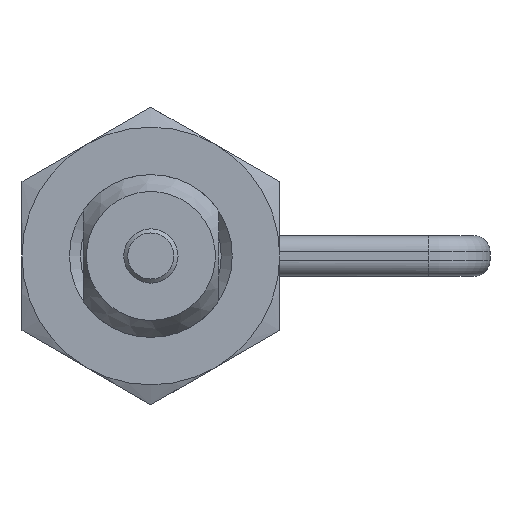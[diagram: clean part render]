
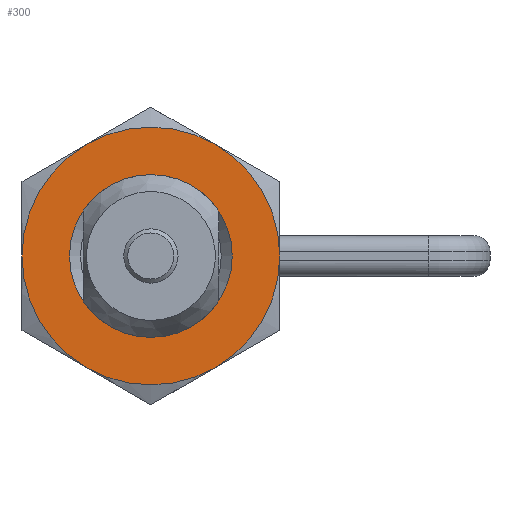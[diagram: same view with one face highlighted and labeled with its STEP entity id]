
A CAD part, front view. The second image highlights one B-rep face of the part: STEP entity #300.
In plain terms, the highlighted planar face has unit normal (0, -1, 0).
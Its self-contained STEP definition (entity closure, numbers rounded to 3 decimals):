
#300 = ADVANCED_FACE( '', ( #517, #518 ), #519, .F. );
#517 = FACE_BOUND( '', #737, .T. );
#518 = FACE_OUTER_BOUND( '', #738, .T. );
#519 = PLANE( '', #739 );
#737 = EDGE_LOOP( '', ( #1425 ) );
#738 = EDGE_LOOP( '', ( #1426, #1427, #1428, #1429, #1430, #1431 ) );
#739 = AXIS2_PLACEMENT_3D( '', #1432, #1433, #1434 );
#1425 = ORIENTED_EDGE( '', *, *, #1648, .F. );
#1426 = ORIENTED_EDGE( '', *, *, #1651, .T. );
#1427 = ORIENTED_EDGE( '', *, *, #1652, .T. );
#1428 = ORIENTED_EDGE( '', *, *, #1618, .T. );
#1429 = ORIENTED_EDGE( '', *, *, #1643, .T. );
#1430 = ORIENTED_EDGE( '', *, *, #1644, .T. );
#1431 = ORIENTED_EDGE( '', *, *, #1645, .T. );
#1432 = CARTESIAN_POINT( '', ( 9.5, 0., 0. ) );
#1433 = DIRECTION( '', ( 0., 1., 0. ) );
#1434 = DIRECTION( '', ( 0., 0., 1. ) );
#1618 = EDGE_CURVE( '', #1942, #1943, #1944, .T. );
#1643 = EDGE_CURVE( '', #1943, #1924, #1981, .T. );
#1644 = EDGE_CURVE( '', #1924, #1936, #1982, .T. );
#1645 = EDGE_CURVE( '', #1936, #1983, #1984, .T. );
#1648 = EDGE_CURVE( '', #1987, #1987, #1988, .T. );
#1651 = EDGE_CURVE( '', #1983, #1951, #1993, .T. );
#1652 = EDGE_CURVE( '', #1951, #1942, #1994, .T. );
#1924 = VERTEX_POINT( '', #2688 );
#1936 = VERTEX_POINT( '', #2722 );
#1942 = VERTEX_POINT( '', #2748 );
#1943 = VERTEX_POINT( '', #2749 );
#1944 = CIRCLE( '', #2750, 9.5 );
#1951 = VERTEX_POINT( '', #2768 );
#1981 = CIRCLE( '', #2860, 9.5 );
#1982 = CIRCLE( '', #2861, 9.5 );
#1983 = VERTEX_POINT( '', #2862 );
#1984 = CIRCLE( '', #2863, 9.5 );
#1987 = VERTEX_POINT( '', #2876 );
#1988 = CIRCLE( '', #2877, 6. );
#1993 = CIRCLE( '', #2882, 9.5 );
#1994 = CIRCLE( '', #2883, 9.5 );
#2688 = CARTESIAN_POINT( '', ( -9.5, 0., 0. ) );
#2722 = CARTESIAN_POINT( '', ( -4.75, 0., -8.227 ) );
#2748 = CARTESIAN_POINT( '', ( 4.75, 0., 8.227 ) );
#2749 = CARTESIAN_POINT( '', ( -4.75, 0., 8.227 ) );
#2750 = AXIS2_PLACEMENT_3D( '', #3164, #3165, #3166 );
#2768 = CARTESIAN_POINT( '', ( 9.5, 0., 0. ) );
#2860 = AXIS2_PLACEMENT_3D( '', #3191, #3192, #3193 );
#2861 = AXIS2_PLACEMENT_3D( '', #3194, #3195, #3196 );
#2862 = CARTESIAN_POINT( '', ( 4.75, 0., -8.227 ) );
#2863 = AXIS2_PLACEMENT_3D( '', #3197, #3198, #3199 );
#2876 = CARTESIAN_POINT( '', ( 0., 0., -6. ) );
#2877 = AXIS2_PLACEMENT_3D( '', #3200, #3201, #3202 );
#2882 = AXIS2_PLACEMENT_3D( '', #3209, #3210, #3211 );
#2883 = AXIS2_PLACEMENT_3D( '', #3212, #3213, #3214 );
#3164 = CARTESIAN_POINT( '', ( 0., 0., 0. ) );
#3165 = DIRECTION( '', ( 0., -1., 0. ) );
#3166 = DIRECTION( '', ( 0., 0., -1. ) );
#3191 = CARTESIAN_POINT( '', ( 0., 0., 0. ) );
#3192 = DIRECTION( '', ( 0., -1., 0. ) );
#3193 = DIRECTION( '', ( 0., 0., -1. ) );
#3194 = CARTESIAN_POINT( '', ( 0., 0., 0. ) );
#3195 = DIRECTION( '', ( 0., -1., 0. ) );
#3196 = DIRECTION( '', ( 0., 0., -1. ) );
#3197 = CARTESIAN_POINT( '', ( 0., 0., 0. ) );
#3198 = DIRECTION( '', ( 0., -1., 0. ) );
#3199 = DIRECTION( '', ( 0., 0., -1. ) );
#3200 = CARTESIAN_POINT( '', ( 0., 0., 0. ) );
#3201 = DIRECTION( '', ( 0., -1., 0. ) );
#3202 = DIRECTION( '', ( 0., 0., -1. ) );
#3209 = CARTESIAN_POINT( '', ( 0., 0., 0. ) );
#3210 = DIRECTION( '', ( 0., -1., 0. ) );
#3211 = DIRECTION( '', ( 0., 0., -1. ) );
#3212 = CARTESIAN_POINT( '', ( 0., 0., 0. ) );
#3213 = DIRECTION( '', ( 0., -1., 0. ) );
#3214 = DIRECTION( '', ( 0., 0., -1. ) );
